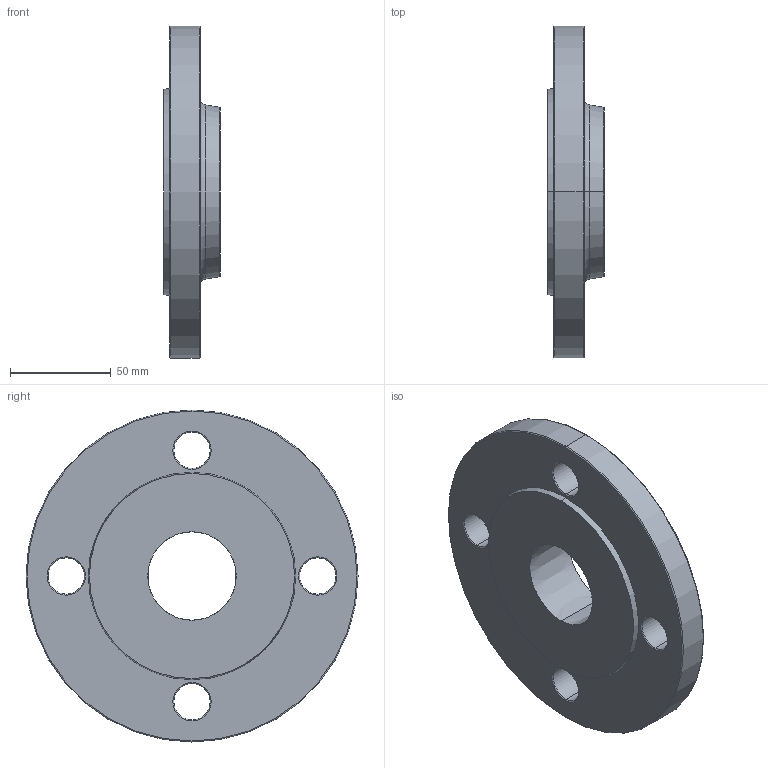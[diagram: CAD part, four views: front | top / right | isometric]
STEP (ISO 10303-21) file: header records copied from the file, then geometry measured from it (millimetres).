
FILE_DESCRIPTION (( 'STEP AP203' ), '1' );
FILE_NAME ('KP_W6-63.step', '2011-08-08T11:59:38', ( '' ), ( '' ), 'SwSTEP 2.0', 'SolidWorks 2011', '' );
FILE_SCHEMA (( 'CONFIG_CONTROL_DESIGN' ));
Length unit declared in the file: millimetre
Products named in the file (1): KP_W6-63
Bounding box: 28 x 165 x 165 mm (x, y, z)
Volume: 344727.9 mm3; surface area: 55187.6 mm2
Topology: 1 solids, 1 shells, 44 faces, 96 edges, 56 vertices
Faces by surface type: torus 24, cylinder 10, cone 6, plane 4
Entity records: 1325 total; most frequent: DIRECTION 266, CARTESIAN_POINT 197, ORIENTED_EDGE 192, AXIS2_PLACEMENT_3D 125, EDGE_CURVE 96, CIRCLE 80, EDGE_LOOP 56, VERTEX_POINT 56
